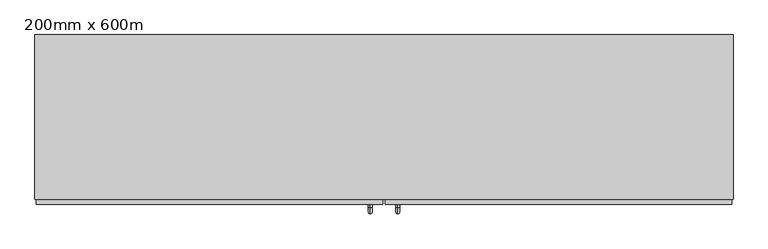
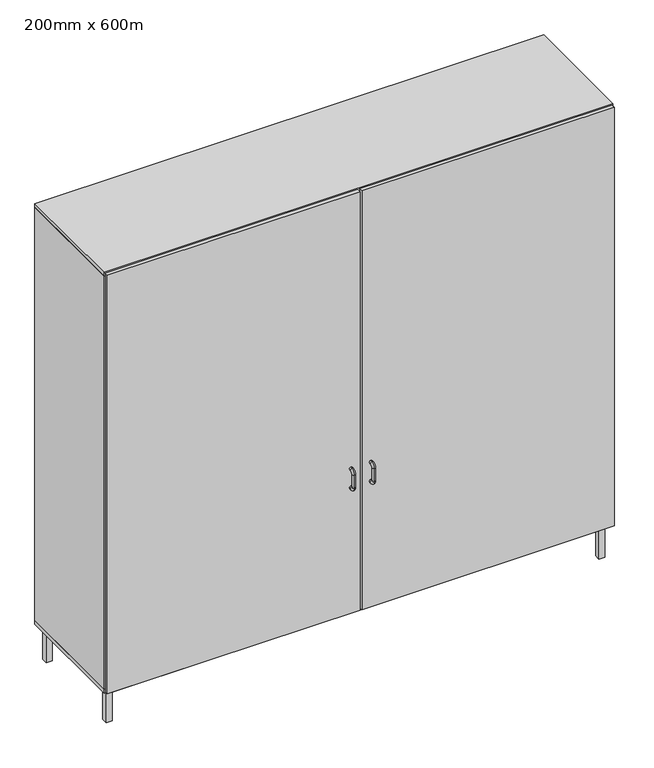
"""IFC4 building model written with IfcOpenShell, lengths in millimetres: furniture geometry, Armoire - 2 portes : 200mm x 600m."""

from ifc_helpers import new_model, si_unit, point, frame, origin, place, context, project, spatial, polyline, circle_curve, ellipse_curve, trimmed, outline, extrude, faceted_brep, source, transform, mapped, element, save
from ifc_brep_helpers import plane_surface, cylinder_surface, revolved_surface, advanced_brep


def furniture_200mm_x_600m_de16569d(model_context):
    return source(origin(), model_context, "Body", "SolidModel", [
        extrude(outline(polyline([(1351.8969338, 265.0), (-1151.8969338, 265.0), (-1151.8969338, 275.0), (1351.8969338, 275.0), (1351.8969338, 265.0)])), frame((0.0, 0.0, 199.0), z_axis=(0.0, 0.0, 1.0), x_axis=(1.0, 0.0, 0.0)), (0.0, 0.0, 1.0), 2182.0),
        extrude(outline(polyline([(-1151.8969338, -325.0), (-1170.8969338, -325.0), (-1170.8969338, 275.0), (-1151.8969338, 275.0), (-1151.8969338, -325.0)])), frame((0.0, 0.0, 199.0), z_axis=(0.0, 0.0, 1.0), x_axis=(1.0, 0.0, 0.0)), (0.0, 0.0, 1.0), 2182.0),
        extrude(outline(polyline([(1370.8969338, -325.0), (1351.8969338, -325.0), (1351.8969338, 275.0), (1370.8969338, 275.0), (1370.8969338, -325.0)])), frame((0.0, 0.0, 199.0), z_axis=(0.0, 0.0, 1.0), x_axis=(1.0, 0.0, 0.0)), (0.0, 0.0, 1.0), 2182.0),
        faceted_brep([(1315.8969338, -270.0, 150.0), (1315.8969338, -270.0, 180.0), (1315.8969338, 220.0, 180.0), (1315.8969338, 220.0, 150.0), (1345.8969338, -300.0, 0.0), (1345.8969338, -270.0, 0.0), (1345.8969338, -270.0, 150.0), (1345.8969338, 220.0, 150.0), (1345.8969338, 220.0, 0.0), (1345.8969338, 250.0, 0.0), (1345.8969338, 250.0, 180.0), (1345.8969338, -300.0, 180.0), (-1115.8969338, 220.0, 180.0), (-1115.8969338, 220.0, 150.0), (1315.8969338, 250.0, 0.0), (1315.8969338, 250.0, 150.0), (-1115.8969338, 250.0, 150.0), (-1115.8969338, 250.0, 0.0), (-1145.8969338, 250.0, 0.0), (-1145.8969338, 250.0, 180.0), (-1115.8969338, -270.0, 180.0), (-1115.8969338, -270.0, 150.0), (-1145.8969338, 220.0, 0.0), (-1145.8969338, 220.0, 150.0), (-1145.8969338, -270.0, 150.0), (-1145.8969338, -270.0, 0.0), (-1145.8969338, -300.0, 0.0), (-1145.8969338, -300.0, 180.0), (1315.8969338, -300.0, 150.0), (-1115.8969338, -300.0, 150.0), (-1115.8969338, -300.0, 0.0), (1315.8969338, -300.0, 0.0), (-1115.8969338, -270.0, 0.0), (1315.8969338, -270.0, 0.0), (-1115.8969338, 220.0, 0.0), (1315.8969338, 220.0, 0.0)], [[[0, 1, 2, 3]], [[4, 5, 6, 7, 8, 9, 10, 11]], [[3, 2, 12, 13]], [[10, 9, 14, 15, 16, 17, 18, 19]], [[13, 12, 20, 21]], [[19, 18, 22, 23, 24, 25, 26, 27]], [[1, 0, 21, 20]], [[0, 3, 7, 6]], [[3, 13, 16, 15]], [[13, 21, 24, 23]], [[21, 0, 28, 29]], [[4, 11, 27, 26, 30, 29, 28, 31]], [[10, 19, 27, 11], [2, 1, 20, 12]], [[30, 26, 25, 32]], [[4, 31, 33, 5]], [[34, 22, 18, 17]], [[8, 35, 14, 9]], [[30, 32, 21, 29]], [[32, 25, 24, 21]], [[34, 17, 16, 13]], [[22, 34, 13, 23]], [[14, 35, 3, 15]], [[35, 8, 7, 3]], [[5, 33, 0, 6]], [[33, 31, 28, 0]]]),
        extrude(outline(polyline([(95.0, -344.0), (-1165.8969338, -344.0), (-1165.8969338, -325.0), (95.0, -325.0), (95.0, -344.0)])), frame((0.0, 0.0, 185.0), z_axis=(0.0, 0.0, 1.0), x_axis=(1.0, 0.0, 0.0)), (0.0, 0.0, 1.0), 2210.0),
        extrude(outline(polyline([(1365.8969338, -344.0), (105.0, -344.0), (105.0, -325.0), (1365.8969338, -325.0), (1365.8969338, -344.0)])), frame((0.0, 0.0, 185.0), z_axis=(0.0, 0.0, 1.0), x_axis=(1.0, 0.0, 0.0)), (0.0, 0.0, 1.0), 2210.0),
        extrude(outline(polyline([(1370.8969338, -325.0), (-1170.8969338, -325.0), (-1170.8969338, 275.0), (1370.8969338, 275.0), (1370.8969338, -325.0)])), frame((0.0, 0.0, 180.0), z_axis=(0.0, 0.0, 1.0), x_axis=(1.0, 0.0, 0.0)), (0.0, 0.0, 1.0), 19.0),
        extrude(outline(polyline([(1370.8969338, -325.0), (-1170.8969338, -325.0), (-1170.8969338, 275.0), (1370.8969338, 275.0), (1370.8969338, -325.0)])), frame((0.0, 0.0, 2381.0), z_axis=(0.0, 0.0, 1.0), x_axis=(1.0, 0.0, 0.0)), (0.0, 0.0, 1.0), 19.0),
        advanced_brep(
        [(50.0, -344.0, 958.0), (50.0, -344.0, 942.0), (50.0, -354.0, 958.0), (50.0, -354.0, 942.0), (50.0, -361.0, 935.0), (50.0, -377.0, 935.0), (50.0, -377.0, 865.0), (50.0, -361.0, 865.0), (50.0, -354.0, 858.0), (50.0, -354.0, 842.0), (50.0, -344.0, 842.0), (50.0, -344.0, 858.0)],
        [
            (0, 1, circle_curve(frame((50.0, -344.0, 950.0), z_axis=(0.0, 1.0, 0.0), x_axis=(0.0, 0.0, -1.0)), 8.0)),
            (1, 0, circle_curve(frame((50.0, -344.0, 950.0), z_axis=(0.0, 1.0, 0.0), x_axis=(0.0, 0.0, -1.0)), 8.0)),
            (0, 2),
            (2, 3, circle_curve(frame((50.0, -354.0, 950.0), z_axis=(0.0, 1.0, 0.0), x_axis=(0.0, 0.0, -1.0)), 8.0)),
            (3, 1),
            (3, 2, circle_curve(frame((50.0, -354.0, 950.0), z_axis=(0.0, 1.0, 0.0), x_axis=(0.0, 0.0, -1.0)), 8.0)),
            (4, 3, circle_curve(frame((50.0, -354.0, 935.0), z_axis=(-1.0, 0.0, 0.0), x_axis=(0.0, 0.0, 1.0)), 7.0)),
            (2, 5, circle_curve(frame((50.0, -354.0, 935.0), z_axis=(1.0, 0.0, 0.0), x_axis=(0.0, 0.0, 1.0)), 23.0)),
            (5, 4, circle_curve(frame((50.0, -369.0, 935.0), z_axis=(0.0, 0.0, 1.0), x_axis=(0.0, 1.0, 0.0)), 8.0)),
            (4, 5, circle_curve(frame((50.0, -369.0, 935.0), z_axis=(0.0, 0.0, 1.0), x_axis=(0.0, 1.0, 0.0)), 8.0)),
            (5, 6),
            (6, 7, circle_curve(frame((50.0, -369.0, 865.0), z_axis=(0.0, 0.0, 1.0), x_axis=(0.0, 1.0, 0.0)), 8.0)),
            (7, 4),
            (7, 6, circle_curve(frame((50.0, -369.0, 865.0), z_axis=(0.0, 0.0, 1.0), x_axis=(0.0, 1.0, 0.0)), 8.0)),
            (8, 7, circle_curve(frame((50.0, -354.0, 865.0), z_axis=(-1.0, 0.0, 0.0), x_axis=(0.0, -1.0, 0.0)), 7.0)),
            (6, 9, circle_curve(frame((50.0, -354.0, 865.0), z_axis=(1.0, 0.0, 0.0), x_axis=(0.0, -1.0, 0.0)), 23.0)),
            (9, 8, circle_curve(frame((50.0, -354.0, 850.0), z_axis=(0.0, -1.0, 0.0), x_axis=(0.0, 0.0, 1.0)), 8.0)),
            (8, 9, circle_curve(frame((50.0, -354.0, 850.0), z_axis=(0.0, -1.0, 0.0), x_axis=(0.0, 0.0, 1.0)), 8.0)),
            (10, 11, circle_curve(frame((50.0, -344.0, 850.0), z_axis=(0.0, 1.0, 0.0), x_axis=(0.0, 0.0, 1.0)), 8.0)),
            (11, 10, circle_curve(frame((50.0, -344.0, 850.0), z_axis=(0.0, 1.0, 0.0), x_axis=(0.0, 0.0, 1.0)), 8.0)),
            (9, 10),
            (11, 8),
        ],
        [
            plane_surface(frame((100.0, -344.0, 950.0), z_axis=(0.0, 1.0, 0.0), x_axis=(1.0, 0.0, 0.0))),
            cylinder_surface(frame((50.0, -344.0, 950.0), z_axis=(0.0, 1.0, 0.0), x_axis=(0.0, 0.0, -1.0)), 8.0),
            revolved_surface(trimmed(ellipse_curve(frame((50.0, -354.0, 950.0), z_axis=(0.0, 1.0, 0.0), x_axis=(0.0, 0.0, -1.0)), 8.0, 8.0), [point((50.0, -354.0, 958.0))], [point((50.0, -354.0, 942.0))], True, "CARTESIAN"), (100.0, -354.0, 935.0), (1.0, 0.0, 0.0)),
            revolved_surface(trimmed(ellipse_curve(frame((50.0, -354.0, 950.0), z_axis=(0.0, 1.0, 0.0), x_axis=(0.0, 0.0, -1.0)), 8.0, 8.0), [point((50.0, -354.0, 942.0))], [point((50.0, -354.0, 958.0))], True, "CARTESIAN"), (100.0, -354.0, 935.0), (1.0, 0.0, 0.0)),
            cylinder_surface(frame((50.0, -369.0, 935.0), z_axis=(0.0, 0.0, 1.0), x_axis=(0.0, 1.0, 0.0)), 8.0),
            revolved_surface(trimmed(ellipse_curve(frame((50.0, -369.0, 865.0), z_axis=(0.0, 0.0, 1.0), x_axis=(0.0, 1.0, 0.0)), 8.0, 8.0), [point((50.0, -377.0, 865.0))], [point((50.0, -361.0, 865.0))], True, "CARTESIAN"), (100.0, -354.0, 865.0), (1.0, 0.0, 0.0)),
            revolved_surface(trimmed(ellipse_curve(frame((50.0, -369.0, 865.0), z_axis=(0.0, 0.0, 1.0), x_axis=(0.0, 1.0, 0.0)), 8.0, 8.0), [point((50.0, -361.0, 865.0))], [point((50.0, -377.0, 865.0))], True, "CARTESIAN"), (100.0, -354.0, 865.0), (1.0, 0.0, 0.0)),
            plane_surface(frame((100.0, -344.0, 850.0), z_axis=(0.0, 1.0, 0.0), x_axis=(1.0, 0.0, 0.0))),
            cylinder_surface(frame((50.0, -354.0, 850.0), z_axis=(0.0, -1.0, 0.0), x_axis=(0.0, 0.0, 1.0)), 8.0),
        ],
        [
            (0, [[1, 2]]),
            (1, [[-1, 3, 4, 5]]),
            (1, [[-2, -5, 6, -3]]),
            (2, [[7, -4, 8, 9]]),
            (3, [[-8, -6, -7, 10]]),
            (4, [[-9, 11, 12, 13]]),
            (4, [[-10, -13, 14, -11]]),
            (5, [[15, -12, 16, 17]]),
            (6, [[-16, -14, -15, 18]]),
            (7, [[19, 20]]),
            (8, [[-17, 21, -20, 22]]),
            (8, [[-18, -22, -19, -21]]),
        ],
    ),
        advanced_brep(
        [(150.0, -344.0, 958.0), (150.0, -344.0, 942.0), (150.0, -354.0, 958.0), (150.0, -354.0, 942.0), (150.0, -361.0, 935.0), (150.0, -377.0, 935.0), (150.0, -377.0, 865.0), (150.0, -361.0, 865.0), (150.0, -354.0, 858.0), (150.0, -354.0, 842.0), (150.0, -344.0, 842.0), (150.0, -344.0, 858.0)],
        [
            (0, 1, circle_curve(frame((150.0, -344.0, 950.0), z_axis=(0.0, 1.0, 0.0), x_axis=(0.0, 0.0, -1.0)), 8.0)),
            (1, 0, circle_curve(frame((150.0, -344.0, 950.0), z_axis=(0.0, 1.0, 0.0), x_axis=(0.0, 0.0, -1.0)), 8.0)),
            (0, 2),
            (2, 3, circle_curve(frame((150.0, -354.0, 950.0), z_axis=(0.0, 1.0, 0.0), x_axis=(0.0, 0.0, -1.0)), 8.0)),
            (3, 1),
            (3, 2, circle_curve(frame((150.0, -354.0, 950.0), z_axis=(0.0, 1.0, 0.0), x_axis=(0.0, 0.0, -1.0)), 8.0)),
            (4, 3, circle_curve(frame((150.0, -354.0, 935.0), z_axis=(-1.0, 0.0, 0.0), x_axis=(0.0, 0.0, 1.0)), 7.0)),
            (2, 5, circle_curve(frame((150.0, -354.0, 935.0), z_axis=(1.0, 0.0, 0.0), x_axis=(0.0, 0.0, 1.0)), 23.0)),
            (5, 4, circle_curve(frame((150.0, -369.0, 935.0), z_axis=(0.0, 0.0, 1.0), x_axis=(0.0, 1.0, 0.0)), 8.0)),
            (4, 5, circle_curve(frame((150.0, -369.0, 935.0), z_axis=(0.0, 0.0, 1.0), x_axis=(0.0, 1.0, 0.0)), 8.0)),
            (5, 6),
            (6, 7, circle_curve(frame((150.0, -369.0, 865.0), z_axis=(0.0, 0.0, 1.0), x_axis=(0.0, 1.0, 0.0)), 8.0)),
            (7, 4),
            (7, 6, circle_curve(frame((150.0, -369.0, 865.0), z_axis=(0.0, 0.0, 1.0), x_axis=(0.0, 1.0, 0.0)), 8.0)),
            (8, 7, circle_curve(frame((150.0, -354.0, 865.0), z_axis=(-1.0, 0.0, 0.0), x_axis=(0.0, -1.0, 0.0)), 7.0)),
            (6, 9, circle_curve(frame((150.0, -354.0, 865.0), z_axis=(1.0, 0.0, 0.0), x_axis=(0.0, -1.0, 0.0)), 23.0)),
            (9, 8, circle_curve(frame((150.0, -354.0, 850.0), z_axis=(0.0, -1.0, 0.0), x_axis=(0.0, 0.0, 1.0)), 8.0)),
            (8, 9, circle_curve(frame((150.0, -354.0, 850.0), z_axis=(0.0, -1.0, 0.0), x_axis=(0.0, 0.0, 1.0)), 8.0)),
            (10, 11, circle_curve(frame((150.0, -344.0, 850.0), z_axis=(0.0, 1.0, 0.0), x_axis=(0.0, 0.0, 1.0)), 8.0)),
            (11, 10, circle_curve(frame((150.0, -344.0, 850.0), z_axis=(0.0, 1.0, 0.0), x_axis=(0.0, 0.0, 1.0)), 8.0)),
            (9, 10),
            (11, 8),
        ],
        [
            plane_surface(frame((100.0, -344.0, 950.0), z_axis=(0.0, 1.0, 0.0), x_axis=(1.0, 0.0, 0.0))),
            cylinder_surface(frame((150.0, -344.0, 950.0), z_axis=(0.0, 1.0, 0.0), x_axis=(0.0, 0.0, -1.0)), 8.0),
            revolved_surface(trimmed(ellipse_curve(frame((150.0, -354.0, 950.0), z_axis=(0.0, 1.0, 0.0), x_axis=(0.0, 0.0, -1.0)), 8.0, 8.0), [point((150.0, -354.0, 958.0))], [point((150.0, -354.0, 942.0))], True, "CARTESIAN"), (100.0, -354.0, 935.0), (1.0, 0.0, 0.0)),
            revolved_surface(trimmed(ellipse_curve(frame((150.0, -354.0, 950.0), z_axis=(0.0, 1.0, 0.0), x_axis=(0.0, 0.0, -1.0)), 8.0, 8.0), [point((150.0, -354.0, 942.0))], [point((150.0, -354.0, 958.0))], True, "CARTESIAN"), (100.0, -354.0, 935.0), (1.0, 0.0, 0.0)),
            cylinder_surface(frame((150.0, -369.0, 935.0), z_axis=(0.0, 0.0, 1.0), x_axis=(0.0, 1.0, 0.0)), 8.0),
            revolved_surface(trimmed(ellipse_curve(frame((150.0, -369.0, 865.0), z_axis=(0.0, 0.0, 1.0), x_axis=(0.0, 1.0, 0.0)), 8.0, 8.0), [point((150.0, -377.0, 865.0))], [point((150.0, -361.0, 865.0))], True, "CARTESIAN"), (100.0, -354.0, 865.0), (1.0, 0.0, 0.0)),
            revolved_surface(trimmed(ellipse_curve(frame((150.0, -369.0, 865.0), z_axis=(0.0, 0.0, 1.0), x_axis=(0.0, 1.0, 0.0)), 8.0, 8.0), [point((150.0, -361.0, 865.0))], [point((150.0, -377.0, 865.0))], True, "CARTESIAN"), (100.0, -354.0, 865.0), (1.0, 0.0, 0.0)),
            plane_surface(frame((100.0, -344.0, 850.0), z_axis=(0.0, 1.0, 0.0), x_axis=(1.0, 0.0, 0.0))),
            cylinder_surface(frame((150.0, -354.0, 850.0), z_axis=(0.0, -1.0, 0.0), x_axis=(0.0, 0.0, 1.0)), 8.0),
        ],
        [
            (0, [[1, 2]]),
            (1, [[-1, 3, 4, 5]]),
            (1, [[-2, -5, 6, -3]]),
            (2, [[7, -4, 8, 9]]),
            (3, [[-8, -6, -7, 10]]),
            (4, [[-9, 11, 12, 13]]),
            (4, [[-10, -13, 14, -11]]),
            (5, [[15, -12, 16, 17]]),
            (6, [[-16, -14, -15, 18]]),
            (7, [[19, 20]]),
            (8, [[-17, 21, -20, 22]]),
            (8, [[-18, -22, -19, -21]]),
        ],
    ),
    ])


if __name__ == "__main__":
    model = new_model("IFC4")
    model_context = context("Model", 3, world=origin())
    ifc_project = project(units=[si_unit("LENGTHUNIT", "METRE", prefix="MILLI")], contexts=[model_context])
    site = spatial("IfcSite", under=ifc_project)
    building = spatial("IfcBuilding", under=site)
    placement = place(None, origin())
    furniture_200mm_x_600m_shape = furniture_200mm_x_600m_de16569d(model_context)
    element("IfcFurniture", 1, ObjectType="Armoire - 2 portes : 200mm x 600m", at=placement, inside=building, context=model_context, shape_type="MappedRepresentation", body=[
        mapped(furniture_200mm_x_600m_shape, transform((0.0, 0.0, 0.0), x_axis=(1.0, 0.0, 0.0), y_axis=(0.0, 1.0, 0.0), z_axis=(0.0, 0.0, 1.0))),
    ])
    save(model, "model.ifc")
